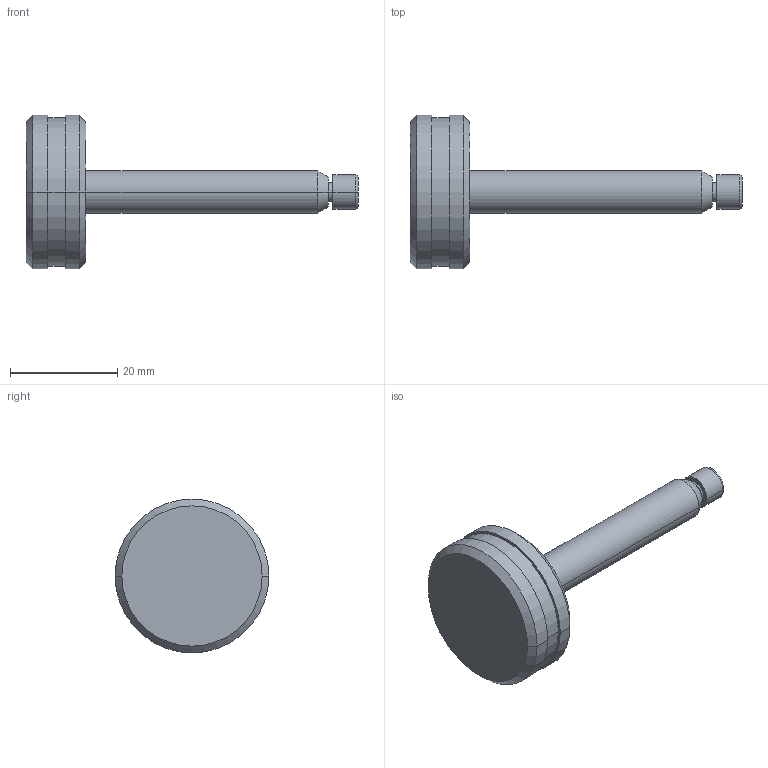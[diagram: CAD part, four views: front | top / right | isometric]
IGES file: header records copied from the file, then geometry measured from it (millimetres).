
Start section:  PTC IGES file: sch335-part.igs
Global section: file name: sch335-part.igs; native system: Pro/ENGINEER by Parametric Technology Corporation; preprocessor: 2002350; author: chant; organization: Unknown; date: 070529.154409; units: inch
Bounding box: 61.95 x 28.7 x 28.7 mm (x, y, z)
Surface area: 3584.5 mm2 (no closed solid volume)
Topology: 0 solids, 0 shells, 33 faces, 172 edges, 194 vertices
Faces by surface type: revolution 26, bspline 7
